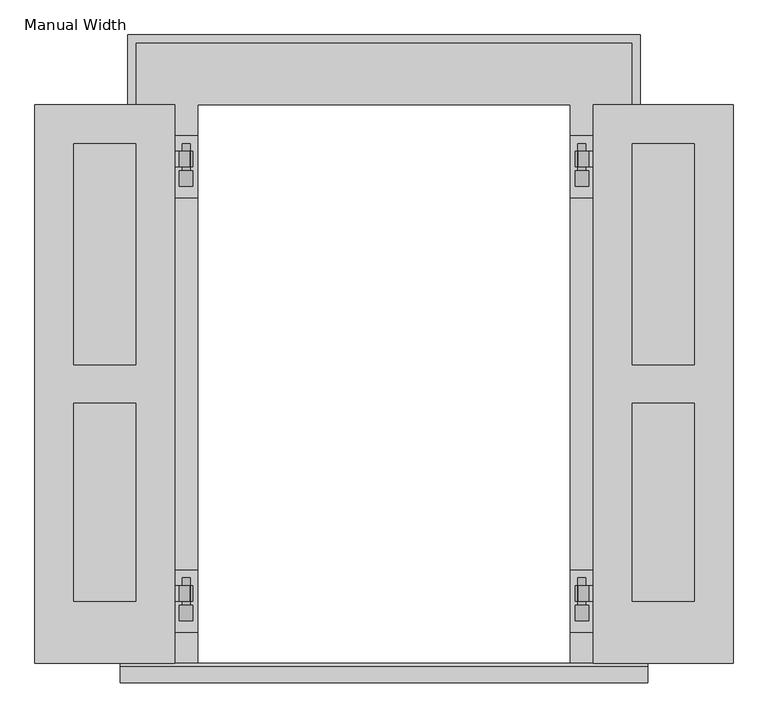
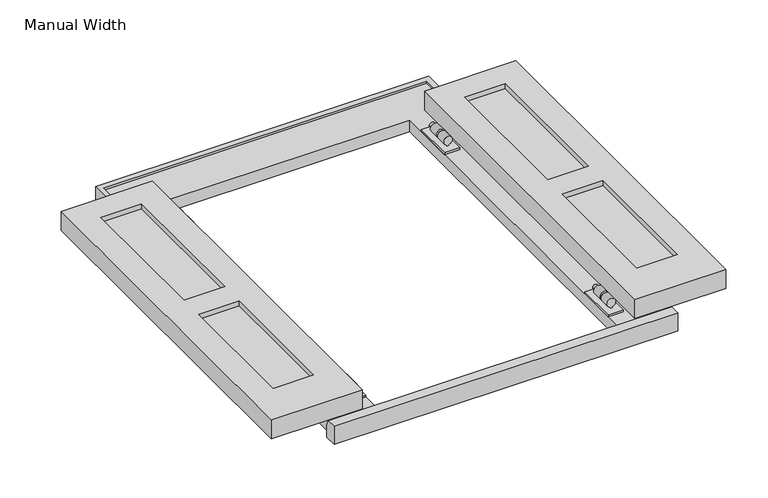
"""IFC4 building model written with IfcOpenShell, lengths in millimetres: proxy geometry, Shutters-Trim-Window-Exterior-Flat-Backband-Colonial : Manual Width."""

from ifc_helpers import new_model, si_unit, frame, origin, place, context, project, spatial, polyline, circle_curve, outline, extrude, faceted_brep, source, transform, mapped, element, save
from ifc_brep_helpers import plane_surface, cylinder_surface, revolved_surface, advanced_brep


def manual_width_d89d13d8(model_context):
    return source(origin(), model_context, "Body", "SolidModel", [
        extrude(outline(polyline([(-571.5, 0.0), (-342.9, 0.0), (-342.9, -914.4), (-571.5, -914.4), (-571.5, 0.0)]), holes=[polyline([(-508.0, -63.5), (-508.0, -425.45), (-406.4, -425.45), (-406.4, -63.5), (-508.0, -63.5)]), polyline([(-406.4, -488.95), (-508.0, -488.95), (-508.0, -812.8), (-406.4, -812.8), (-406.4, -488.95)])]), frame((0.0, 0.0, 44.45), z_axis=(0.0, 0.0, 1.0), x_axis=(1.0, 0.0, 0.0)), (0.0, 0.0, 1.0), 50.8),
        extrude(outline(polyline([(-508.0, -63.5), (-406.4, -63.5), (-406.4, -425.45), (-508.0, -425.45), (-508.0, -63.5)])), frame((0.0, 0.0, 57.15), z_axis=(0.0, 0.0, 1.0), x_axis=(1.0, 0.0, 0.0)), (0.0, 0.0, 1.0), 25.4),
        extrude(outline(polyline([(-406.4, -488.95), (-406.4, -812.8), (-508.0, -812.8), (-508.0, -488.95), (-406.4, -488.95)])), frame((0.0, 0.0, 57.15), z_axis=(0.0, 0.0, 1.0), x_axis=(1.0, 0.0, 0.0)), (0.0, 0.0, 1.0), 25.4),
        extrude(outline(polyline([(571.5, 0.0), (571.5, -914.4), (342.9, -914.4), (342.9, 0.0), (571.5, 0.0)]), holes=[polyline([(508.0, -63.5), (406.4, -63.5), (406.4, -425.45), (508.0, -425.45), (508.0, -63.5)]), polyline([(406.4, -488.95), (406.4, -812.8), (508.0, -812.8), (508.0, -488.95), (406.4, -488.95)])]), frame((0.0, 0.0, 44.45), z_axis=(0.0, 0.0, 1.0), x_axis=(1.0, 0.0, 0.0)), (0.0, 0.0, 1.0), 50.8),
        extrude(outline(polyline([(508.0, -63.5), (508.0, -425.45), (406.4, -425.45), (406.4, -63.5), (508.0, -63.5)])), frame((0.0, 0.0, 57.15), z_axis=(0.0, 0.0, 1.0), x_axis=(1.0, 0.0, 0.0)), (0.0, 0.0, 1.0), 25.4),
        extrude(outline(polyline([(406.4, -488.95), (508.0, -488.95), (508.0, -812.8), (406.4, -812.8), (406.4, -488.95)])), frame((0.0, 0.0, 57.15), z_axis=(0.0, 0.0, 1.0), x_axis=(1.0, 0.0, 0.0)), (0.0, 0.0, 1.0), 25.4),
        extrude(outline(polyline([(-342.9, -762.0), (-304.8, -762.0), (-304.8, -863.6), (-342.9, -863.6), (-342.9, -762.0)])), frame((0.0, 0.0, 31.75), z_axis=(0.0, 0.0, 1.0), x_axis=(1.0, 0.0, 0.0)), (0.0, 0.0, 1.0), 4.7625),
        advanced_brep(
        [(-388.9375, -774.7, 44.45), (-363.474, -774.7, 44.45), (-363.474, -774.7, 39.6875), (-388.9375, -774.7, 39.6875), (-388.9375, -825.5, 39.6875), (-363.474, -825.5, 39.6875), (-363.474, -825.5, 44.45), (-388.9375, -825.5, 44.45), (-363.474, -787.4, 39.6875), (-323.85, -787.4, 39.6875), (-323.85, -812.8, 39.6875), (-363.474, -812.8, 39.6875), (-363.474, -812.8, 44.45), (-323.85, -812.8, 44.45), (-323.85, -787.4, 44.45), (-363.474, -787.4, 44.45), (-330.2, -812.8, 50.8), (-330.2, -787.4, 50.8), (-330.2, -812.8, 46.0375), (-330.2, -787.4, 46.0375), (-334.9625, -812.8, 46.0375), (-334.9625, -787.4, 46.0375), (-334.9625, -812.8, 50.8), (-334.9625, -787.4, 50.8)],
        [
            (0, 1),
            (1, 2),
            (2, 3),
            (3, 0),
            (4, 5),
            (5, 6),
            (6, 7),
            (7, 4),
            (2, 8),
            (8, 9),
            (9, 10),
            (10, 11),
            (11, 5),
            (4, 3),
            (7, 0),
            (6, 12),
            (12, 13),
            (13, 14),
            (14, 15),
            (15, 1),
            (16, 17),
            (17, 14, circle_curve(frame((-323.85, -787.4, 50.8), z_axis=(0.0, 1.0, 0.0), x_axis=(1.0, 0.0, 0.0)), 6.35)),
            (13, 16, circle_curve(frame((-323.85, -812.8, 50.8), z_axis=(0.0, -1.0, 0.0), x_axis=(1.0, 0.0, 0.0)), 6.35)),
            (18, 19),
            (19, 17),
            (16, 18),
            (20, 21),
            (21, 19),
            (18, 20),
            (22, 23),
            (23, 21),
            (20, 22),
            (9, 23, circle_curve(frame((-323.85, -787.4, 50.8), z_axis=(0.0, -1.0, 0.0), x_axis=(1.0, 0.0, 0.0)), 11.1125)),
            (22, 10, circle_curve(frame((-323.85, -812.8, 50.8), z_axis=(0.0, 1.0, 0.0), x_axis=(1.0, 0.0, 0.0)), 11.1125)),
            (12, 11),
            (8, 15),
        ],
        [
            plane_surface(frame((-323.85, -774.7, 50.8), z_axis=(0.0, 1.0, 0.0), x_axis=(0.0, 0.0, 1.0))),
            plane_surface(frame((-323.85, -825.5, 50.8), z_axis=(0.0, -1.0, 0.0), x_axis=(0.0, 0.0, 1.0))),
            plane_surface(frame((-388.9375, -774.7, 39.6875), z_axis=(0.0, 0.0, -1.0), x_axis=(0.0, -1.0, 0.0))),
            plane_surface(frame((-388.9375, -774.7, 44.45), z_axis=(-1.0, 0.0, 0.0), x_axis=(0.0, -1.0, 0.0))),
            plane_surface(frame((-323.85, -774.7, 44.45), z_axis=(0.0, 0.0, 1.0), x_axis=(0.0, -1.0, 0.0))),
            revolved_surface(polyline([(-317.5, -812.8, 50.8), (-317.5, -787.4, 50.8)]), (-323.85, -774.7, 50.8), (0.0, -1.0, 0.0)),
            plane_surface(frame((-330.2, -774.7, 46.0375), z_axis=(1.0, 0.0, 0.0), x_axis=(0.0, -1.0, 0.0))),
            plane_surface(frame((-334.9625, -774.7, 46.0375), z_axis=(0.0, 0.0, -1.0), x_axis=(0.0, -1.0, 0.0))),
            plane_surface(frame((-334.9625, -774.7, 50.8), z_axis=(-1.0, 0.0, 0.0), x_axis=(0.0, -1.0, 0.0))),
            cylinder_surface(frame((-323.85, -774.7, 50.8), z_axis=(0.0, 1.0, 0.0), x_axis=(1.0, 0.0, 0.0)), 11.1125),
            plane_surface(frame((-323.85, -812.8, 50.8), z_axis=(0.0, -1.0, 0.0), x_axis=(0.0, 0.0, 1.0))),
            plane_surface(frame((-363.474, -812.8, 44.45), z_axis=(1.0, 0.0, 0.0), x_axis=(0.0, -1.0, 0.0))),
            plane_surface(frame((-323.85, -787.4, 50.8), z_axis=(0.0, 1.0, 0.0), x_axis=(0.0, 0.0, 1.0))),
            plane_surface(frame((-363.474, -774.7, 44.45), z_axis=(1.0, 0.0, 0.0), x_axis=(0.0, -1.0, 0.0))),
        ],
        [
            (0, [[1, 2, 3, 4]]),
            (1, [[5, 6, 7, 8]]),
            (2, [[-3, 9, 10, 11, 12, 13, -5, 14]]),
            (3, [[-14, -8, 15, -4]]),
            (4, [[-7, 16, 17, 18, 19, 20, -1, -15]]),
            (5, [[21, 22, -18, 23]]),
            (6, [[24, 25, -21, 26]]),
            (7, [[27, 28, -24, 29]]),
            (8, [[30, 31, -27, 32]]),
            (9, [[-11, 33, -30, 34]]),
            (10, [[-12, -34, -32, -29, -26, -23, -17, 35]]),
            (11, [[-16, -6, -13, -35]]),
            (12, [[-19, -22, -25, -28, -31, -33, -10, 36]]),
            (13, [[-9, -2, -20, -36]]),
        ],
    ),
        advanced_brep(
        [(-326.23125, -819.15, 36.5125), (-326.23125, -819.15, 39.945632), (-321.46875, -819.15, 39.945632), (-321.46875, -819.15, 36.5125), (-317.5, -819.15, 50.8), (-330.2, -819.15, 50.8), (-326.23125, -844.55, 36.5125), (-321.46875, -844.55, 36.5125), (-321.46875, -844.55, 39.945632), (-326.23125, -844.55, 39.945632), (-330.2, -774.7, 50.8), (-317.5, -774.7, 50.8)],
        [
            (0, 1),
            (1, 2, circle_curve(frame((-323.85, -819.15, 50.8), z_axis=(0.0, 1.0, 0.0), x_axis=(1.0, 0.0, 0.0)), 11.1125)),
            (2, 3),
            (3, 0),
            (4, 5, circle_curve(frame((-323.85, -819.15, 50.8), z_axis=(0.0, -1.0, 0.0), x_axis=(1.0, 0.0, 0.0)), 6.35)),
            (5, 4, circle_curve(frame((-323.85, -819.15, 50.8), z_axis=(0.0, -1.0, 0.0), x_axis=(1.0, 0.0, 0.0)), 6.35)),
            (6, 7),
            (7, 8),
            (8, 9, circle_curve(frame((-323.85, -844.55, 50.8), z_axis=(0.0, -1.0, 0.0), x_axis=(1.0, 0.0, 0.0)), 11.1125)),
            (9, 6),
            (0, 6),
            (9, 1),
            (3, 7),
            (2, 8),
            (10, 11, circle_curve(frame((-323.85, -774.7, 50.8), z_axis=(0.0, 1.0, 0.0), x_axis=(1.0, 0.0, 0.0)), 6.35)),
            (11, 10, circle_curve(frame((-323.85, -774.7, 50.8), z_axis=(0.0, 1.0, 0.0), x_axis=(1.0, 0.0, 0.0)), 6.35)),
            (11, 4),
            (5, 10),
        ],
        [
            plane_surface(frame((-321.46875, -819.15, 36.5125), z_axis=(0.0, 1.0, 0.0), x_axis=(1.0, 0.0, 6.23955382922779e-12))),
            plane_surface(frame((-321.46875, -844.55, 36.5125), z_axis=(0.0, -1.0, 0.0), x_axis=(-1.0, 0.0, -6.23955382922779e-12))),
            plane_surface(frame((-326.23125, -819.15, 39.945632), z_axis=(-1.0, 0.0, 0.0), x_axis=(0.0, -1.0, 0.0))),
            plane_surface(frame((-326.23125, -819.15, 36.5125), z_axis=(6.23955382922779e-12, 0.0, -1.0), x_axis=(0.0, -1.0, 0.0))),
            plane_surface(frame((-321.46875, -819.15, 36.5125), z_axis=(1.0, 0.0, 0.0), x_axis=(0.0, -1.0, 0.0))),
            cylinder_surface(frame((-323.85, -844.55, 50.8), z_axis=(0.0, 1.0, 0.0), x_axis=(1.0, 0.0, 0.0)), 11.1125),
            plane_surface(frame((-317.5, -774.7, 50.8), z_axis=(0.0, 1.0, 0.0), x_axis=(0.0, 0.0, 1.0))),
            cylinder_surface(frame((-323.85, -844.55, 50.8), z_axis=(0.0, 1.0, 0.0), x_axis=(1.0, 0.0, 0.0)), 6.35),
        ],
        [
            (0, [[1, 2, 3, 4], [5, 6]]),
            (1, [[7, 8, 9, 10]]),
            (2, [[11, -10, 12, -1]]),
            (3, [[13, -7, -11, -4]]),
            (4, [[14, -8, -13, -3]]),
            (5, [[-12, -9, -14, -2]]),
            (6, [[15, 16]]),
            (7, [[17, -6, 18, -16]]),
            (7, [[-18, -5, -17, -15]]),
        ],
    ),
        extrude(outline(polyline([(342.9, -762.0), (342.9, -863.6), (304.8, -863.6), (304.8, -762.0), (342.9, -762.0)])), frame((0.0, 0.0, 31.75), z_axis=(0.0, 0.0, 1.0), x_axis=(1.0, 0.0, 0.0)), (0.0, 0.0, 1.0), 4.7625),
        advanced_brep(
        [(388.9375, -774.7, 44.45), (388.9375, -774.7, 39.6875), (363.474, -774.7, 39.6875), (363.474, -774.7, 44.45), (388.9375, -825.5, 39.6875), (388.9375, -825.5, 44.45), (363.474, -825.5, 44.45), (363.474, -825.5, 39.6875), (363.474, -812.8, 39.6875), (323.85, -812.8, 39.6875), (323.85, -787.4, 39.6875), (363.474, -787.4, 39.6875), (363.474, -787.4, 44.45), (323.85, -787.4, 44.45), (323.85, -812.8, 44.45), (363.474, -812.8, 44.45), (330.2, -812.8, 50.8), (330.2, -787.4, 50.8), (330.2, -812.8, 46.0375), (330.2, -787.4, 46.0375), (334.9625, -812.8, 46.0375), (334.9625, -787.4, 46.0375), (334.9625, -812.8, 50.8), (334.9625, -787.4, 50.8)],
        [
            (0, 1),
            (1, 2),
            (2, 3),
            (3, 0),
            (4, 5),
            (5, 6),
            (6, 7),
            (7, 4),
            (1, 4),
            (7, 8),
            (8, 9),
            (9, 10),
            (10, 11),
            (11, 2),
            (0, 5),
            (3, 12),
            (12, 13),
            (13, 14),
            (14, 15),
            (15, 6),
            (16, 14, circle_curve(frame((323.85, -812.8, 50.8), z_axis=(0.0, -1.0, 0.0), x_axis=(-1.0, 0.0, 0.0)), 6.35)),
            (13, 17, circle_curve(frame((323.85, -787.4, 50.8), z_axis=(0.0, 1.0, 0.0), x_axis=(-1.0, 0.0, 0.0)), 6.35)),
            (17, 16),
            (18, 16),
            (17, 19),
            (19, 18),
            (20, 18),
            (19, 21),
            (21, 20),
            (22, 20),
            (21, 23),
            (23, 22),
            (9, 22, circle_curve(frame((323.85, -812.8, 50.8), z_axis=(0.0, 1.0, 0.0), x_axis=(-1.0, 0.0, 0.0)), 11.1125)),
            (23, 10, circle_curve(frame((323.85, -787.4, 50.8), z_axis=(0.0, -1.0, 0.0), x_axis=(-1.0, 0.0, 0.0)), 11.1125)),
            (8, 15),
            (12, 11),
        ],
        [
            plane_surface(frame((323.85, -774.7, 50.8), z_axis=(0.0, 1.0, 0.0), x_axis=(0.0, 0.0, 1.0))),
            plane_surface(frame((323.85, -825.5, 50.8), z_axis=(0.0, -1.0, 0.0), x_axis=(0.0, 0.0, 1.0))),
            plane_surface(frame((388.9375, -774.7, 39.6875), z_axis=(0.0, 0.0, -1.0), x_axis=(0.0, -1.0, 0.0))),
            plane_surface(frame((388.9375, -774.7, 44.45), z_axis=(1.0, 0.0, 0.0), x_axis=(0.0, -1.0, 0.0))),
            plane_surface(frame((323.85, -774.7, 44.45), z_axis=(0.0, 0.0, 1.0), x_axis=(0.0, -1.0, 0.0))),
            revolved_surface(polyline([(317.5, -812.8, 50.8), (317.5, -787.4, 50.8)]), (323.85, -774.7, 50.8), (0.0, -1.0, 0.0)),
            plane_surface(frame((330.2, -774.7, 46.0375), z_axis=(-1.0, 0.0, 0.0), x_axis=(0.0, -1.0, 0.0))),
            plane_surface(frame((334.9625, -774.7, 46.0375), z_axis=(0.0, 0.0, -1.0), x_axis=(0.0, -1.0, 0.0))),
            plane_surface(frame((334.9625, -774.7, 50.8), z_axis=(1.0, 0.0, 0.0), x_axis=(0.0, -1.0, 0.0))),
            cylinder_surface(frame((323.85, -774.7, 50.8), z_axis=(0.0, 1.0, 0.0), x_axis=(-1.0, 0.0, 0.0)), 11.1125),
            plane_surface(frame((323.85, -812.8, 50.8), z_axis=(0.0, -1.0, 0.0), x_axis=(0.0, 0.0, 1.0))),
            plane_surface(frame((363.474, -812.8, 44.45), z_axis=(-1.0, 0.0, 0.0), x_axis=(0.0, -1.0, 0.0))),
            plane_surface(frame((323.85, -787.4, 50.8), z_axis=(0.0, 1.0, 0.0), x_axis=(0.0, 0.0, 1.0))),
            plane_surface(frame((363.474, -774.7, 44.45), z_axis=(-1.0, 0.0, 0.0), x_axis=(0.0, -1.0, 0.0))),
        ],
        [
            (0, [[1, 2, 3, 4]]),
            (1, [[5, 6, 7, 8]]),
            (2, [[9, -8, 10, 11, 12, 13, 14, -2]]),
            (3, [[-1, 15, -5, -9]]),
            (4, [[-15, -4, 16, 17, 18, 19, 20, -6]]),
            (5, [[21, -18, 22, 23]]),
            (6, [[24, -23, 25, 26]]),
            (7, [[27, -26, 28, 29]]),
            (8, [[30, -29, 31, 32]]),
            (9, [[33, -32, 34, -12]]),
            (10, [[35, -19, -21, -24, -27, -30, -33, -11]]),
            (11, [[-35, -10, -7, -20]]),
            (12, [[36, -13, -34, -31, -28, -25, -22, -17]]),
            (13, [[-36, -16, -3, -14]]),
        ],
    ),
        advanced_brep(
        [(326.23125, -819.15, 36.5125), (321.46875, -819.15, 36.5125), (321.46875, -819.15, 39.945632), (326.23125, -819.15, 39.945632), (317.5, -819.15, 50.8), (330.2, -819.15, 50.8), (326.23125, -844.55, 36.5125), (326.23125, -844.55, 39.945632), (321.46875, -844.55, 39.945632), (321.46875, -844.55, 36.5125), (330.2, -774.7, 50.8), (317.5, -774.7, 50.8)],
        [
            (0, 1),
            (1, 2),
            (2, 3, circle_curve(frame((323.85, -819.15, 50.8), z_axis=(0.0, 1.0, 0.0), x_axis=(-1.0, 0.0, 0.0)), 11.1125)),
            (3, 0),
            (4, 5, circle_curve(frame((323.85, -819.15, 50.8), z_axis=(0.0, -1.0, 0.0), x_axis=(-1.0, 0.0, 0.0)), 6.35)),
            (5, 4, circle_curve(frame((323.85, -819.15, 50.8), z_axis=(0.0, -1.0, 0.0), x_axis=(-1.0, 0.0, 0.0)), 6.35)),
            (6, 7),
            (7, 8, circle_curve(frame((323.85, -844.55, 50.8), z_axis=(0.0, -1.0, 0.0), x_axis=(-1.0, 0.0, 0.0)), 11.1125)),
            (8, 9),
            (9, 6),
            (3, 7),
            (6, 0),
            (9, 1),
            (8, 2),
            (10, 11, circle_curve(frame((323.85, -774.7, 50.8), z_axis=(0.0, 1.0, 0.0), x_axis=(-1.0, 0.0, 0.0)), 6.35)),
            (11, 10, circle_curve(frame((323.85, -774.7, 50.8), z_axis=(0.0, 1.0, 0.0), x_axis=(-1.0, 0.0, 0.0)), 6.35)),
            (10, 5),
            (4, 11),
        ],
        [
            plane_surface(frame((321.46875, -819.15, 36.5125), z_axis=(0.0, 1.0, 0.0), x_axis=(-1.0, 0.0, 6.246014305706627e-12))),
            plane_surface(frame((321.46875, -844.55, 36.5125), z_axis=(0.0, -1.0, 0.0), x_axis=(1.0, 0.0, -6.246014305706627e-12))),
            plane_surface(frame((326.23125, -819.15, 39.945632), z_axis=(1.0, 0.0, 0.0), x_axis=(0.0, -1.0, 0.0))),
            plane_surface(frame((326.23125, -819.15, 36.5125), z_axis=(-6.246014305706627e-12, 0.0, -1.0), x_axis=(0.0, -1.0, 0.0))),
            plane_surface(frame((321.46875, -819.15, 36.5125), z_axis=(-1.0, 0.0, 0.0), x_axis=(0.0, -1.0, 0.0))),
            cylinder_surface(frame((323.85, -844.55, 50.8), z_axis=(0.0, 1.0, 0.0), x_axis=(-1.0, 0.0, 0.0)), 11.1125),
            plane_surface(frame((317.5, -774.7, 50.8), z_axis=(0.0, 1.0, 0.0), x_axis=(0.0, 0.0, 1.0))),
            cylinder_surface(frame((323.85, -844.55, 50.8), z_axis=(0.0, 1.0, 0.0), x_axis=(-1.0, 0.0, 0.0)), 6.35),
        ],
        [
            (0, [[1, 2, 3, 4], [5, 6]]),
            (1, [[7, 8, 9, 10]]),
            (2, [[-4, 11, -7, 12]]),
            (3, [[-1, -12, -10, 13]]),
            (4, [[-2, -13, -9, 14]]),
            (5, [[-3, -14, -8, -11]]),
            (6, [[15, 16]]),
            (7, [[-15, 17, -5, 18]]),
            (7, [[-16, -18, -6, -17]]),
        ],
    ),
        extrude(outline(polyline([(342.9, -50.8), (342.9, -152.4), (304.8, -152.4), (304.8, -50.8), (342.9, -50.8)])), frame((0.0, 0.0, 31.75), z_axis=(0.0, 0.0, 1.0), x_axis=(1.0, 0.0, 0.0)), (0.0, 0.0, 1.0), 4.7625),
        advanced_brep(
        [(388.9375, -63.5, 44.45), (388.9375, -63.5, 39.6875), (363.474, -63.5, 39.6875), (363.474, -63.5, 44.45), (388.9375, -114.3, 39.6875), (388.9375, -114.3, 44.45), (363.474, -114.3, 44.45), (363.474, -114.3, 39.6875), (363.474, -101.6, 39.6875), (323.85, -101.6, 39.6875), (323.85, -76.2, 39.6875), (363.474, -76.2, 39.6875), (363.474, -76.2, 44.45), (323.85, -76.2, 44.45), (323.85, -101.6, 44.45), (363.474, -101.6, 44.45), (330.2, -101.6, 50.8), (330.2, -76.2, 50.8), (330.2, -101.6, 46.0375), (330.2, -76.2, 46.0375), (334.9625, -101.6, 46.0375), (334.9625, -76.2, 46.0375), (334.9625, -101.6, 50.8), (334.9625, -76.2, 50.8)],
        [
            (0, 1),
            (1, 2),
            (2, 3),
            (3, 0),
            (4, 5),
            (5, 6),
            (6, 7),
            (7, 4),
            (1, 4),
            (7, 8),
            (8, 9),
            (9, 10),
            (10, 11),
            (11, 2),
            (0, 5),
            (3, 12),
            (12, 13),
            (13, 14),
            (14, 15),
            (15, 6),
            (16, 14, circle_curve(frame((323.85, -101.6, 50.8), z_axis=(0.0, -1.0, 0.0), x_axis=(-1.0, 0.0, 0.0)), 6.35)),
            (13, 17, circle_curve(frame((323.85, -76.2, 50.8), z_axis=(0.0, 1.0, 0.0), x_axis=(-1.0, 0.0, 0.0)), 6.35)),
            (17, 16),
            (18, 16),
            (17, 19),
            (19, 18),
            (20, 18),
            (19, 21),
            (21, 20),
            (22, 20),
            (21, 23),
            (23, 22),
            (9, 22, circle_curve(frame((323.85, -101.6, 50.8), z_axis=(0.0, 1.0, 0.0), x_axis=(-1.0, 0.0, 0.0)), 11.1125)),
            (23, 10, circle_curve(frame((323.85, -76.2, 50.8), z_axis=(0.0, -1.0, 0.0), x_axis=(-1.0, 0.0, 0.0)), 11.1125)),
            (8, 15),
            (12, 11),
        ],
        [
            plane_surface(frame((323.85, -63.5, 50.8), z_axis=(0.0, 1.0, 0.0), x_axis=(0.0, 0.0, 1.0))),
            plane_surface(frame((323.85, -114.3, 50.8), z_axis=(0.0, -1.0, 0.0), x_axis=(0.0, 0.0, 1.0))),
            plane_surface(frame((388.9375, -63.5, 39.6875), z_axis=(0.0, 0.0, -1.0), x_axis=(0.0, -1.0, 0.0))),
            plane_surface(frame((388.9375, -63.5, 44.45), z_axis=(1.0, 0.0, 0.0), x_axis=(0.0, -1.0, 0.0))),
            plane_surface(frame((323.85, -63.5, 44.45), z_axis=(0.0, 0.0, 1.0), x_axis=(0.0, -1.0, 0.0))),
            revolved_surface(polyline([(317.5, -101.6, 50.8), (317.5, -76.2, 50.8)]), (323.85, -63.5, 50.8), (0.0, -1.0, 0.0)),
            plane_surface(frame((330.2, -63.5, 46.0375), z_axis=(-1.0, 0.0, 0.0), x_axis=(0.0, -1.0, 0.0))),
            plane_surface(frame((334.9625, -63.5, 46.0375), z_axis=(0.0, 0.0, -1.0), x_axis=(0.0, -1.0, 0.0))),
            plane_surface(frame((334.9625, -63.5, 50.8), z_axis=(1.0, 0.0, 0.0), x_axis=(0.0, -1.0, 0.0))),
            cylinder_surface(frame((323.85, -63.5, 50.8), z_axis=(0.0, 1.0, 0.0), x_axis=(-1.0, 0.0, 0.0)), 11.1125),
            plane_surface(frame((323.85, -101.6, 50.8), z_axis=(0.0, -1.0, 0.0), x_axis=(0.0, 0.0, 1.0))),
            plane_surface(frame((363.474, -101.6, 44.45), z_axis=(-1.0, 0.0, 0.0), x_axis=(0.0, -1.0, 0.0))),
            plane_surface(frame((323.85, -76.2, 50.8), z_axis=(0.0, 1.0, 0.0), x_axis=(0.0, 0.0, 1.0))),
            plane_surface(frame((363.474, -63.5, 44.45), z_axis=(-1.0, 0.0, 0.0), x_axis=(0.0, -1.0, 0.0))),
        ],
        [
            (0, [[1, 2, 3, 4]]),
            (1, [[5, 6, 7, 8]]),
            (2, [[9, -8, 10, 11, 12, 13, 14, -2]]),
            (3, [[-1, 15, -5, -9]]),
            (4, [[-15, -4, 16, 17, 18, 19, 20, -6]]),
            (5, [[21, -18, 22, 23]]),
            (6, [[24, -23, 25, 26]]),
            (7, [[27, -26, 28, 29]]),
            (8, [[30, -29, 31, 32]]),
            (9, [[33, -32, 34, -12]]),
            (10, [[35, -19, -21, -24, -27, -30, -33, -11]]),
            (11, [[-35, -10, -7, -20]]),
            (12, [[36, -13, -34, -31, -28, -25, -22, -17]]),
            (13, [[-36, -16, -3, -14]]),
        ],
    ),
        advanced_brep(
        [(326.23125, -107.95, 36.5125), (321.46875, -107.95, 36.5125), (321.46875, -107.95, 39.945632), (326.23125, -107.95, 39.945632), (317.5, -107.95, 50.8), (330.2, -107.95, 50.8), (326.23125, -133.35, 36.5125), (326.23125, -133.35, 39.945632), (321.46875, -133.35, 39.945632), (321.46875, -133.35, 36.5125), (330.2, -63.5, 50.8), (317.5, -63.5, 50.8)],
        [
            (0, 1),
            (1, 2),
            (2, 3, circle_curve(frame((323.85, -107.95, 50.8), z_axis=(0.0, 1.0, 0.0), x_axis=(-1.0, 0.0, 0.0)), 11.1125)),
            (3, 0),
            (4, 5, circle_curve(frame((323.85, -107.95, 50.8), z_axis=(0.0, -1.0, 0.0), x_axis=(-1.0, 0.0, 0.0)), 6.35)),
            (5, 4, circle_curve(frame((323.85, -107.95, 50.8), z_axis=(0.0, -1.0, 0.0), x_axis=(-1.0, 0.0, 0.0)), 6.35)),
            (6, 7),
            (7, 8, circle_curve(frame((323.85, -133.35, 50.8), z_axis=(0.0, -1.0, 0.0), x_axis=(-1.0, 0.0, 0.0)), 11.1125)),
            (8, 9),
            (9, 6),
            (3, 7),
            (6, 0),
            (9, 1),
            (8, 2),
            (10, 11, circle_curve(frame((323.85, -63.5, 50.8), z_axis=(0.0, 1.0, 0.0), x_axis=(-1.0, 0.0, 0.0)), 6.35)),
            (11, 10, circle_curve(frame((323.85, -63.5, 50.8), z_axis=(0.0, 1.0, 0.0), x_axis=(-1.0, 0.0, 0.0)), 6.35)),
            (10, 5),
            (4, 11),
        ],
        [
            plane_surface(frame((321.46875, -107.95, 36.5125), z_axis=(0.0, 1.0, 0.0), x_axis=(-1.0, 0.0, 6.246014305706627e-12))),
            plane_surface(frame((321.46875, -133.35, 36.5125), z_axis=(0.0, -1.0, 0.0), x_axis=(1.0, 0.0, -6.246014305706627e-12))),
            plane_surface(frame((326.23125, -107.95, 39.945632), z_axis=(1.0, 0.0, 0.0), x_axis=(0.0, -1.0, 0.0))),
            plane_surface(frame((326.23125, -107.95, 36.5125), z_axis=(-6.246014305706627e-12, 0.0, -1.0), x_axis=(0.0, -1.0, 0.0))),
            plane_surface(frame((321.46875, -107.95, 36.5125), z_axis=(-1.0, 0.0, 0.0), x_axis=(0.0, -1.0, 0.0))),
            cylinder_surface(frame((323.85, -133.35, 50.8), z_axis=(0.0, 1.0, 0.0), x_axis=(-1.0, 0.0, 0.0)), 11.1125),
            plane_surface(frame((317.5, -63.5, 50.8), z_axis=(0.0, 1.0, 0.0), x_axis=(0.0, 0.0, 1.0))),
            cylinder_surface(frame((323.85, -133.35, 50.8), z_axis=(0.0, 1.0, 0.0), x_axis=(-1.0, 0.0, 0.0)), 6.35),
        ],
        [
            (0, [[1, 2, 3, 4], [5, 6]]),
            (1, [[7, 8, 9, 10]]),
            (2, [[-4, 11, -7, 12]]),
            (3, [[-1, -12, -10, 13]]),
            (4, [[-2, -13, -9, 14]]),
            (5, [[-3, -14, -8, -11]]),
            (6, [[15, 16]]),
            (7, [[-15, 17, -5, 18]]),
            (7, [[-16, -18, -6, -17]]),
        ],
    ),
        extrude(outline(polyline([(-342.9, -50.8), (-304.8, -50.8), (-304.8, -152.4), (-342.9, -152.4), (-342.9, -50.8)])), frame((0.0, 0.0, 31.75), z_axis=(0.0, 0.0, 1.0), x_axis=(1.0, 0.0, 0.0)), (0.0, 0.0, 1.0), 4.7625),
        advanced_brep(
        [(-388.9375, -63.5, 44.45), (-363.474, -63.5, 44.45), (-363.474, -63.5, 39.6875), (-388.9375, -63.5, 39.6875), (-388.9375, -114.3, 39.6875), (-363.474, -114.3, 39.6875), (-363.474, -114.3, 44.45), (-388.9375, -114.3, 44.45), (-363.474, -76.2, 39.6875), (-323.85, -76.2, 39.6875), (-323.85, -101.6, 39.6875), (-363.474, -101.6, 39.6875), (-363.474, -101.6, 44.45), (-323.85, -101.6, 44.45), (-323.85, -76.2, 44.45), (-363.474, -76.2, 44.45), (-330.2, -101.6, 50.8), (-330.2, -76.2, 50.8), (-330.2, -101.6, 46.0375), (-330.2, -76.2, 46.0375), (-334.9625, -101.6, 46.0375), (-334.9625, -76.2, 46.0375), (-334.9625, -101.6, 50.8), (-334.9625, -76.2, 50.8)],
        [
            (0, 1),
            (1, 2),
            (2, 3),
            (3, 0),
            (4, 5),
            (5, 6),
            (6, 7),
            (7, 4),
            (2, 8),
            (8, 9),
            (9, 10),
            (10, 11),
            (11, 5),
            (4, 3),
            (7, 0),
            (6, 12),
            (12, 13),
            (13, 14),
            (14, 15),
            (15, 1),
            (16, 17),
            (17, 14, circle_curve(frame((-323.85, -76.2, 50.8), z_axis=(0.0, 1.0, 0.0), x_axis=(1.0, 0.0, 0.0)), 6.35)),
            (13, 16, circle_curve(frame((-323.85, -101.6, 50.8), z_axis=(0.0, -1.0, 0.0), x_axis=(1.0, 0.0, 0.0)), 6.35)),
            (18, 19),
            (19, 17),
            (16, 18),
            (20, 21),
            (21, 19),
            (18, 20),
            (22, 23),
            (23, 21),
            (20, 22),
            (9, 23, circle_curve(frame((-323.85, -76.2, 50.8), z_axis=(0.0, -1.0, 0.0), x_axis=(1.0, 0.0, 0.0)), 11.1125)),
            (22, 10, circle_curve(frame((-323.85, -101.6, 50.8), z_axis=(0.0, 1.0, 0.0), x_axis=(1.0, 0.0, 0.0)), 11.1125)),
            (12, 11),
            (8, 15),
        ],
        [
            plane_surface(frame((-323.85, -63.5, 50.8), z_axis=(0.0, 1.0, 0.0), x_axis=(0.0, 0.0, 1.0))),
            plane_surface(frame((-323.85, -114.3, 50.8), z_axis=(0.0, -1.0, 0.0), x_axis=(0.0, 0.0, 1.0))),
            plane_surface(frame((-388.9375, -63.5, 39.6875), z_axis=(0.0, 0.0, -1.0), x_axis=(0.0, -1.0, 0.0))),
            plane_surface(frame((-388.9375, -63.5, 44.45), z_axis=(-1.0, 0.0, 0.0), x_axis=(0.0, -1.0, 0.0))),
            plane_surface(frame((-323.85, -63.5, 44.45), z_axis=(0.0, 0.0, 1.0), x_axis=(0.0, -1.0, 0.0))),
            revolved_surface(polyline([(-317.5, -101.6, 50.8), (-317.5, -76.2, 50.8)]), (-323.85, -63.5, 50.8), (0.0, -1.0, 0.0)),
            plane_surface(frame((-330.2, -63.5, 46.0375), z_axis=(1.0, 0.0, 0.0), x_axis=(0.0, -1.0, 0.0))),
            plane_surface(frame((-334.9625, -63.5, 46.0375), z_axis=(0.0, 0.0, -1.0), x_axis=(0.0, -1.0, 0.0))),
            plane_surface(frame((-334.9625, -63.5, 50.8), z_axis=(-1.0, 0.0, 0.0), x_axis=(0.0, -1.0, 0.0))),
            cylinder_surface(frame((-323.85, -63.5, 50.8), z_axis=(0.0, 1.0, 0.0), x_axis=(1.0, 0.0, 0.0)), 11.1125),
            plane_surface(frame((-323.85, -101.6, 50.8), z_axis=(0.0, -1.0, 0.0), x_axis=(0.0, 0.0, 1.0))),
            plane_surface(frame((-363.474, -101.6, 44.45), z_axis=(1.0, 0.0, 0.0), x_axis=(0.0, -1.0, 0.0))),
            plane_surface(frame((-323.85, -76.2, 50.8), z_axis=(0.0, 1.0, 0.0), x_axis=(0.0, 0.0, 1.0))),
            plane_surface(frame((-363.474, -63.5, 44.45), z_axis=(1.0, 0.0, 0.0), x_axis=(0.0, -1.0, 0.0))),
        ],
        [
            (0, [[1, 2, 3, 4]]),
            (1, [[5, 6, 7, 8]]),
            (2, [[-3, 9, 10, 11, 12, 13, -5, 14]]),
            (3, [[-14, -8, 15, -4]]),
            (4, [[-7, 16, 17, 18, 19, 20, -1, -15]]),
            (5, [[21, 22, -18, 23]]),
            (6, [[24, 25, -21, 26]]),
            (7, [[27, 28, -24, 29]]),
            (8, [[30, 31, -27, 32]]),
            (9, [[-11, 33, -30, 34]]),
            (10, [[-12, -34, -32, -29, -26, -23, -17, 35]]),
            (11, [[-16, -6, -13, -35]]),
            (12, [[-19, -22, -25, -28, -31, -33, -10, 36]]),
            (13, [[-9, -2, -20, -36]]),
        ],
    ),
        advanced_brep(
        [(-326.23125, -107.95, 36.5125), (-326.23125, -107.95, 39.945632), (-321.46875, -107.95, 39.945632), (-321.46875, -107.95, 36.5125), (-317.5, -107.95, 50.8), (-330.2, -107.95, 50.8), (-326.23125, -133.35, 36.5125), (-321.46875, -133.35, 36.5125), (-321.46875, -133.35, 39.945632), (-326.23125, -133.35, 39.945632), (-330.2, -63.5, 50.8), (-317.5, -63.5, 50.8)],
        [
            (0, 1),
            (1, 2, circle_curve(frame((-323.85, -107.95, 50.8), z_axis=(0.0, 1.0, 0.0), x_axis=(1.0, 0.0, 0.0)), 11.1125)),
            (2, 3),
            (3, 0),
            (4, 5, circle_curve(frame((-323.85, -107.95, 50.8), z_axis=(0.0, -1.0, 0.0), x_axis=(1.0, 0.0, 0.0)), 6.35)),
            (5, 4, circle_curve(frame((-323.85, -107.95, 50.8), z_axis=(0.0, -1.0, 0.0), x_axis=(1.0, 0.0, 0.0)), 6.35)),
            (6, 7),
            (7, 8),
            (8, 9, circle_curve(frame((-323.85, -133.35, 50.8), z_axis=(0.0, -1.0, 0.0), x_axis=(1.0, 0.0, 0.0)), 11.1125)),
            (9, 6),
            (0, 6),
            (9, 1),
            (3, 7),
            (2, 8),
            (10, 11, circle_curve(frame((-323.85, -63.5, 50.8), z_axis=(0.0, 1.0, 0.0), x_axis=(1.0, 0.0, 0.0)), 6.35)),
            (11, 10, circle_curve(frame((-323.85, -63.5, 50.8), z_axis=(0.0, 1.0, 0.0), x_axis=(1.0, 0.0, 0.0)), 6.35)),
            (11, 4),
            (5, 10),
        ],
        [
            plane_surface(frame((-321.46875, -107.95, 36.5125), z_axis=(0.0, 1.0, 0.0), x_axis=(1.0, 0.0, 6.23955382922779e-12))),
            plane_surface(frame((-321.46875, -133.35, 36.5125), z_axis=(0.0, -1.0, 0.0), x_axis=(-1.0, 0.0, -6.23955382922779e-12))),
            plane_surface(frame((-326.23125, -107.95, 39.945632), z_axis=(-1.0, 0.0, 0.0), x_axis=(0.0, -1.0, 0.0))),
            plane_surface(frame((-326.23125, -107.95, 36.5125), z_axis=(6.23955382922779e-12, 0.0, -1.0), x_axis=(0.0, -1.0, 0.0))),
            plane_surface(frame((-321.46875, -107.95, 36.5125), z_axis=(1.0, 0.0, 0.0), x_axis=(0.0, -1.0, 0.0))),
            cylinder_surface(frame((-323.85, -133.35, 50.8), z_axis=(0.0, 1.0, 0.0), x_axis=(1.0, 0.0, 0.0)), 11.1125),
            plane_surface(frame((-317.5, -63.5, 50.8), z_axis=(0.0, 1.0, 0.0), x_axis=(0.0, 0.0, 1.0))),
            cylinder_surface(frame((-323.85, -133.35, 50.8), z_axis=(0.0, 1.0, 0.0), x_axis=(1.0, 0.0, 0.0)), 6.35),
        ],
        [
            (0, [[1, 2, 3, 4], [5, 6]]),
            (1, [[7, 8, 9, 10]]),
            (2, [[11, -10, 12, -1]]),
            (3, [[13, -7, -11, -4]]),
            (4, [[14, -8, -13, -3]]),
            (5, [[-12, -9, -14, -2]]),
            (6, [[15, 16]]),
            (7, [[17, -6, 18, -16]]),
            (7, [[-18, -5, -17, -15]]),
        ],
    ),
        extrude(outline(polyline([(-914.4, 31.75), (-914.4, 0.0), (-946.15, 0.0), (-946.15, 47.625), (-920.1780275, 47.625), (-914.4, 31.75)])), frame((-431.8, 0.0, 0.0), z_axis=(1.0, 0.0, 0.0), x_axis=(0.0, 1.0, 0.0)), (0.0, 0.0, 1.0), 863.6),
        faceted_brep([(304.8, -914.4, 31.75), (304.8, -914.4, 0.0), (419.1, -914.4, 0.0), (419.1, -914.4, 38.1), (406.4, -914.4, 38.1), (406.4, -914.4, 31.75), (-304.8, -914.4, 31.75), (-406.4, -914.4, 31.75), (-406.4, -914.4, 38.1), (-419.1, -914.4, 38.1), (-419.1, -914.4, 0.0), (-304.8, -914.4, 0.0), (304.8, 0.0, 31.75), (304.8, 0.0, 0.0), (-304.8, 0.0, 0.0), (-419.1, 114.3, 0.0), (419.1, 114.3, 0.0), (419.1, 114.3, 38.1), (-419.1, 114.3, 38.1), (-406.4, 101.6, 38.1), (406.4, 101.6, 38.1), (406.4, 101.6, 31.75), (-406.4, 101.6, 31.75), (-304.8, 0.0, 31.75)], [[[0, 1, 2, 3, 4, 5]], [[6, 7, 8, 9, 10, 11]], [[1, 0, 12, 13]], [[2, 1, 13, 14, 11, 10, 15, 16]], [[3, 2, 16, 17]], [[4, 3, 17, 18, 9, 8, 19, 20]], [[5, 4, 20, 21]], [[0, 5, 21, 22, 7, 6, 23, 12]], [[13, 12, 23, 14]], [[17, 16, 15, 18]], [[21, 20, 19, 22]], [[14, 23, 6, 11]], [[18, 15, 10, 9]], [[22, 19, 8, 7]]]),
    ])


if __name__ == "__main__":
    model = new_model("IFC4")
    model_context = context("Model", 3, world=origin())
    ifc_project = project(units=[si_unit("LENGTHUNIT", "METRE", prefix="MILLI")], contexts=[model_context])
    site = spatial("IfcSite", under=ifc_project)
    building = spatial("IfcBuilding", under=site)
    placement = place(None, origin())
    manual_width_shape = manual_width_d89d13d8(model_context)
    element("IfcBuildingElementProxy", 1, Name="Shutters-Trim-Window-Exterior-Flat-Backband-Colonial : Manual Width", ObjectType="Shutters-Trim-Window-Exterior-Flat-Backband-Colonial : Manual Width", at=placement, inside=building, context=model_context, shape_type="MappedRepresentation", body=[
        mapped(manual_width_shape, transform((0.0, 0.0, 0.0), x_axis=(1.0, 0.0, 0.0), y_axis=(0.0, 1.0, 0.0), z_axis=(0.0, 0.0, 1.0))),
    ])
    save(model, "model.ifc")
